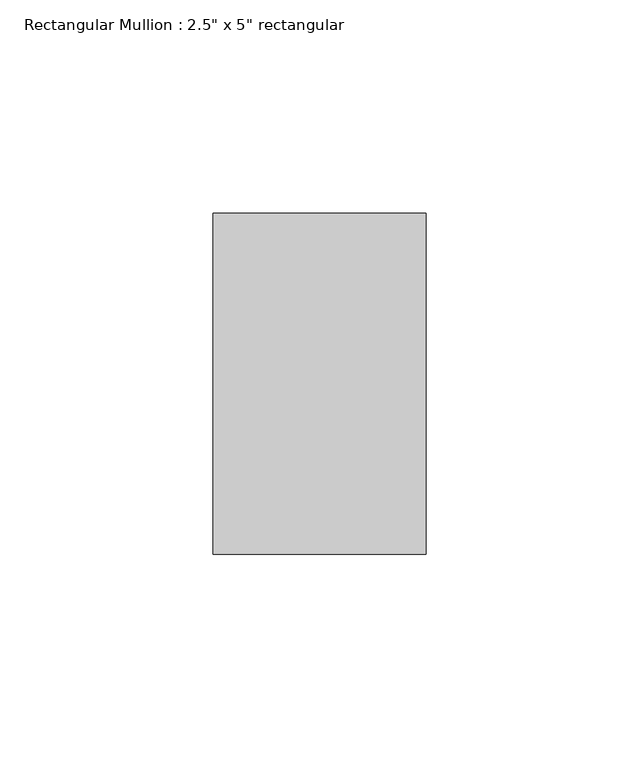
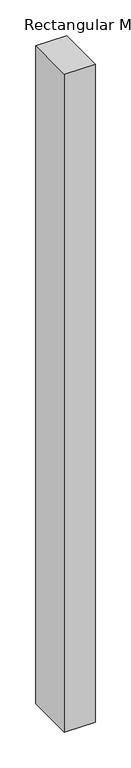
"""IFC4 building model written with IfcOpenShell, lengths in millimetres: member geometry."""

from ifc_helpers import new_model, si_unit, frame, origin, place, context, project, spatial, polyline, outline, extrude, source, transform, mapped, element, save


def member_ab99e772(model_context):
    return source(origin(), model_context, "Body", "SweptSolid", [
        extrude(outline(polyline([(25.0, 40.0), (25.0, -40.0), (-25.0, -40.0), (-25.0, 40.0), (25.0, 40.0)])), frame((0.0, 0.0, -1125.0000003), z_axis=(0.0, 0.0, 1.0), x_axis=(1.0, 0.0, 0.0)), (0.0, 0.0, 1.0), 1125.0000003),
    ])


if __name__ == "__main__":
    model = new_model("IFC4")
    model_context = context("Model", 3, world=origin())
    ifc_project = project(units=[si_unit("LENGTHUNIT", "METRE", prefix="MILLI")], contexts=[model_context])
    site = spatial("IfcSite", under=ifc_project)
    building = spatial("IfcBuilding", under=site)
    placement = place(None, origin())
    member_shape = member_ab99e772(model_context)
    element("IfcMember", 1, ObjectType="Rectangular Mullion : 2.5\" x 5\" rectangular", at=placement, inside=building, context=model_context, shape_type="MappedRepresentation", body=[
        mapped(member_shape, transform((0.0, 0.0, 0.0), x_axis=(1.0, 0.0, 0.0), y_axis=(0.0, 1.0, 0.0), z_axis=(0.0, 0.0, 1.0))),
    ])
    save(model, "model.ifc")
